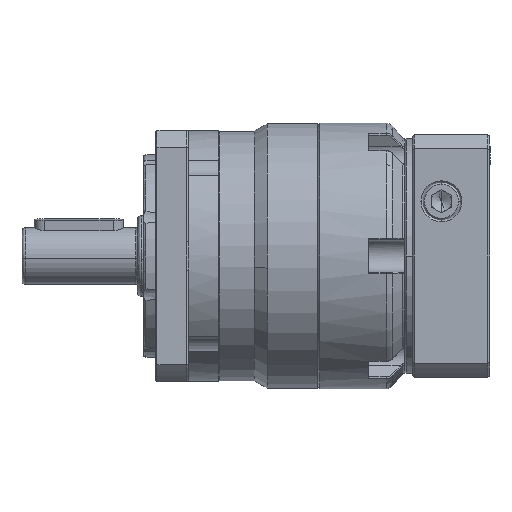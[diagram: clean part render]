
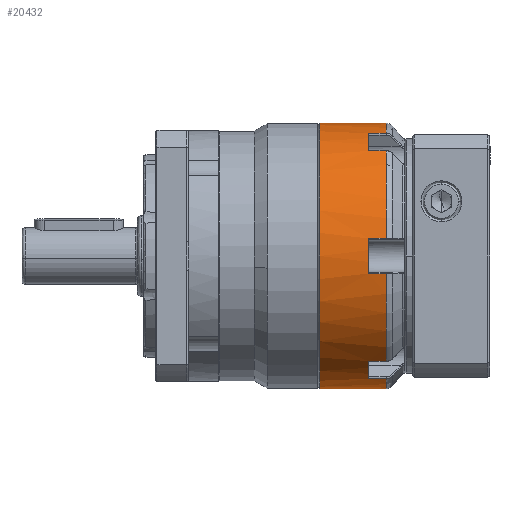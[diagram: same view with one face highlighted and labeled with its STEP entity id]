
A CAD part, front view. The second image highlights one B-rep face of the part: STEP entity #20432.
In plain terms, the highlighted cylindrical face has radius 32.75 mm (diameter 65.5 mm), a partial arc.
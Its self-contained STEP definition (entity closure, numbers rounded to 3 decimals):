
#397 = EDGE_CURVE ( 'NONE', #64731, #60038, #9734, .T. ) ;
#801 = AXIS2_PLACEMENT_3D ( 'NONE', #36148, #3559, #41528 ) ;
#1583 = DIRECTION ( 'NONE',  ( 0., 0., 1. ) ) ;
#1852 = VERTEX_POINT ( 'NONE', #32060 ) ;
#1926 = CARTESIAN_POINT ( 'NONE',  ( 16.921, -32.461, 4.34 ) ) ;
#2207 = AXIS2_PLACEMENT_3D ( 'NONE', #22635, #22480, #22465 ) ;
#3071 = LINE ( 'NONE', #36794, #32007 ) ;
#3264 = EDGE_CURVE ( 'NONE', #67868, #43416, #59003, .T. ) ;
#3559 = DIRECTION ( 'NONE',  ( -1., 0., 0. ) ) ;
#3744 = DIRECTION ( 'NONE',  ( -1., 0., 0. ) ) ;
#4241 = VERTEX_POINT ( 'NONE', #19459 ) ;
#4685 = DIRECTION ( 'NONE',  ( -1., 0., 0. ) ) ;
#4781 = LINE ( 'NONE', #61667, #60448 ) ;
#5180 = CYLINDRICAL_SURFACE ( 'NONE', #8575, 32.75 ) ;
#6924 = DIRECTION ( 'NONE',  ( 1., 0., 0. ) ) ;
#7437 = ORIENTED_EDGE ( 'NONE', *, *, #67014, .T. ) ;
#7731 = DIRECTION ( 'NONE',  ( 1., 0., 0. ) ) ;
#8038 = VERTEX_POINT ( 'NONE', #37664 ) ;
#8348 = VERTEX_POINT ( 'NONE', #29032 ) ;
#8575 = AXIS2_PLACEMENT_3D ( 'NONE', #61800, #56195, #29739 ) ;
#8774 = EDGE_LOOP ( 'NONE', ( #9134, #27161, #31067, #43189, #61864, #9289, #37872, #29565, #31673, #34839, #7437, #62417, #25456, #48362, #41648, #59592 ) ) ;
#9042 = CIRCLE ( 'NONE', #66262, 32.75 ) ;
#9134 = ORIENTED_EDGE ( 'NONE', *, *, #20399, .F. ) ;
#9165 = VECTOR ( 'NONE', #4685, 1000. ) ;
#9180 = DIRECTION ( 'NONE',  ( -1., 0., 0. ) ) ;
#9289 = ORIENTED_EDGE ( 'NONE', *, *, #30266, .T. ) ;
#9734 = CIRCLE ( 'NONE', #2207, 32.75 ) ;
#10822 = DIRECTION ( 'NONE',  ( 1., 0., 0. ) ) ;
#10977 = CARTESIAN_POINT ( 'NONE',  ( 0., -32.461, 4.34 ) ) ;
#11132 = CIRCLE ( 'NONE', #801, 32.75 ) ;
#11227 = CARTESIAN_POINT ( 'NONE',  ( 12.5, -12.472, 30.282 ) ) ;
#11405 = CARTESIAN_POINT ( 'NONE',  ( 16.921, 0., 32.75 ) ) ;
#12010 = LINE ( 'NONE', #50889, #67533 ) ;
#12958 = DIRECTION ( 'NONE',  ( -1., 0., 0. ) ) ;
#13024 = DIRECTION ( 'NONE',  ( 1., 0., 0. ) ) ;
#14005 = LINE ( 'NONE', #28678, #69484 ) ;
#14847 = CARTESIAN_POINT ( 'NONE',  ( 0., -19.989, 25.942 ) ) ;
#15667 = AXIS2_PLACEMENT_3D ( 'NONE', #39479, #6924, #44874 ) ;
#18024 = VECTOR ( 'NONE', #65285, 1000. ) ;
#18313 = CARTESIAN_POINT ( 'NONE',  ( 16.921, -19.989, -25.942 ) ) ;
#18448 = AXIS2_PLACEMENT_3D ( 'NONE', #18558, #56226, #24043 ) ;
#18531 = DIRECTION ( 'NONE',  ( -1., 0., 0. ) ) ;
#18558 = CARTESIAN_POINT ( 'NONE',  ( 16.921, 0., 0. ) ) ;
#18585 = EDGE_CURVE ( 'NONE', #52326, #62519, #52258, .T. ) ;
#18622 = AXIS2_PLACEMENT_3D ( 'NONE', #45408, #12958, #50728 ) ;
#18936 = EDGE_CURVE ( 'NONE', #32157, #67868, #4781, .T. ) ;
#19459 = CARTESIAN_POINT ( 'NONE',  ( 0.5, 0., -32.75 ) ) ;
#20399 = EDGE_CURVE ( 'NONE', #1852, #4241, #12010, .T. ) ;
#20432 = ADVANCED_FACE ( 'NONE', ( #26470 ), #5180, .T. ) ;
#21544 = EDGE_CURVE ( 'NONE', #4241, #39791, #68152, .T. ) ;
#21790 = VERTEX_POINT ( 'NONE', #63703 ) ;
#22465 = DIRECTION ( 'NONE',  ( 0., 0., 1. ) ) ;
#22480 = DIRECTION ( 'NONE',  ( -1., 0., 0. ) ) ;
#22635 = CARTESIAN_POINT ( 'NONE',  ( 16.921, 0., 0. ) ) ;
#22727 = VERTEX_POINT ( 'NONE', #18313 ) ;
#24043 = DIRECTION ( 'NONE',  ( 0., 0., 1. ) ) ;
#25456 = ORIENTED_EDGE ( 'NONE', *, *, #18936, .T. ) ;
#26314 = CARTESIAN_POINT ( 'NONE',  ( 0., -32.461, -4.34 ) ) ;
#26470 = FACE_OUTER_BOUND ( 'NONE', #8774, .T. ) ;
#26931 = AXIS2_PLACEMENT_3D ( 'NONE', #66122, #34204, #1583 ) ;
#27161 = ORIENTED_EDGE ( 'NONE', *, *, #49071, .T. ) ;
#27824 = CARTESIAN_POINT ( 'NONE',  ( 0., -12.472, -30.282 ) ) ;
#28122 = CARTESIAN_POINT ( 'NONE',  ( 16.921, -32.461, -4.34 ) ) ;
#28351 = VERTEX_POINT ( 'NONE', #65599 ) ;
#28678 = CARTESIAN_POINT ( 'NONE',  ( 0., -19.989, -25.942 ) ) ;
#29032 = CARTESIAN_POINT ( 'NONE',  ( 12.5, -19.989, 25.942 ) ) ;
#29565 = ORIENTED_EDGE ( 'NONE', *, *, #65252, .F. ) ;
#29739 = DIRECTION ( 'NONE',  ( 0., 0., 1. ) ) ;
#29864 = CIRCLE ( 'NONE', #18448, 32.75 ) ;
#30266 = EDGE_CURVE ( 'NONE', #22727, #52326, #29864, .T. ) ;
#31067 = ORIENTED_EDGE ( 'NONE', *, *, #62935, .T. ) ;
#31362 = CARTESIAN_POINT ( 'NONE',  ( 16.921, 0., 0. ) ) ;
#31455 = DIRECTION ( 'NONE',  ( -1., 0., 0. ) ) ;
#31598 = DIRECTION ( 'NONE',  ( 0., 0., 1. ) ) ;
#31673 = ORIENTED_EDGE ( 'NONE', *, *, #64530, .T. ) ;
#31780 = EDGE_CURVE ( 'NONE', #43416, #39791, #3071, .T. ) ;
#32007 = VECTOR ( 'NONE', #3744, 1000. ) ;
#32060 = CARTESIAN_POINT ( 'NONE',  ( 16.921, 0., -32.75 ) ) ;
#32157 = VERTEX_POINT ( 'NONE', #11227 ) ;
#33929 = LINE ( 'NONE', #14847, #62317 ) ;
#34204 = DIRECTION ( 'NONE',  ( 1., 0., 0. ) ) ;
#34802 = LINE ( 'NONE', #10977, #49006 ) ;
#34839 = ORIENTED_EDGE ( 'NONE', *, *, #397, .T. ) ;
#36148 = CARTESIAN_POINT ( 'NONE',  ( 16.921, 0., 0. ) ) ;
#36794 = CARTESIAN_POINT ( 'NONE',  ( 0., 0., 32.75 ) ) ;
#37664 = CARTESIAN_POINT ( 'NONE',  ( 12.5, -19.989, -25.942 ) ) ;
#37872 = ORIENTED_EDGE ( 'NONE', *, *, #18585, .T. ) ;
#39479 = CARTESIAN_POINT ( 'NONE',  ( 12.5, 0., 0. ) ) ;
#39791 = VERTEX_POINT ( 'NONE', #46601 ) ;
#41528 = DIRECTION ( 'NONE',  ( 0., 0., 1. ) ) ;
#41648 = ORIENTED_EDGE ( 'NONE', *, *, #31780, .T. ) ;
#43189 = ORIENTED_EDGE ( 'NONE', *, *, #61698, .F. ) ;
#43284 = CARTESIAN_POINT ( 'NONE',  ( 12.5, 0., 0. ) ) ;
#43416 = VERTEX_POINT ( 'NONE', #11405 ) ;
#43457 = DIRECTION ( 'NONE',  ( 1., 0., 0. ) ) ;
#44703 = CIRCLE ( 'NONE', #15667, 32.75 ) ;
#44874 = DIRECTION ( 'NONE',  ( 0., 0., 1. ) ) ;
#45408 = CARTESIAN_POINT ( 'NONE',  ( 0.5, 0., 0. ) ) ;
#46601 = CARTESIAN_POINT ( 'NONE',  ( 0.5, 0., 32.75 ) ) ;
#47533 = CARTESIAN_POINT ( 'NONE',  ( 12.5, -32.461, -4.34 ) ) ;
#48226 = AXIS2_PLACEMENT_3D ( 'NONE', #31362, #31455, #31598 ) ;
#48362 = ORIENTED_EDGE ( 'NONE', *, *, #3264, .T. ) ;
#48648 = DIRECTION ( 'NONE',  ( 0., 0., 1. ) ) ;
#49006 = VECTOR ( 'NONE', #43457, 1000. ) ;
#49071 = EDGE_CURVE ( 'NONE', #1852, #21790, #11132, .T. ) ;
#49231 = CARTESIAN_POINT ( 'NONE',  ( 16.921, -12.472, 30.282 ) ) ;
#49614 = CIRCLE ( 'NONE', #26931, 32.75 ) ;
#50728 = DIRECTION ( 'NONE',  ( 0., 0., -1. ) ) ;
#50889 = CARTESIAN_POINT ( 'NONE',  ( 0., 0., -32.75 ) ) ;
#52258 = LINE ( 'NONE', #26314, #9165 ) ;
#52326 = VERTEX_POINT ( 'NONE', #28122 ) ;
#53931 = EDGE_CURVE ( 'NONE', #32157, #8348, #9042, .T. ) ;
#54490 = VERTEX_POINT ( 'NONE', #60203 ) ;
#54924 = CARTESIAN_POINT ( 'NONE',  ( 16.921, -19.989, 25.942 ) ) ;
#56195 = DIRECTION ( 'NONE',  ( -1., 0., 0. ) ) ;
#56226 = DIRECTION ( 'NONE',  ( -1., 0., 0. ) ) ;
#59003 = CIRCLE ( 'NONE', #48226, 32.75 ) ;
#59287 = LINE ( 'NONE', #27824, #18024 ) ;
#59592 = ORIENTED_EDGE ( 'NONE', *, *, #21544, .F. ) ;
#60038 = VERTEX_POINT ( 'NONE', #54924 ) ;
#60203 = CARTESIAN_POINT ( 'NONE',  ( 12.5, -12.472, -30.282 ) ) ;
#60448 = VECTOR ( 'NONE', #7731, 1000. ) ;
#61667 = CARTESIAN_POINT ( 'NONE',  ( 0., -12.472, 30.282 ) ) ;
#61698 = EDGE_CURVE ( 'NONE', #8038, #54490, #44703, .T. ) ;
#61800 = CARTESIAN_POINT ( 'NONE',  ( 0., 0., 0. ) ) ;
#61864 = ORIENTED_EDGE ( 'NONE', *, *, #68558, .T. ) ;
#62317 = VECTOR ( 'NONE', #9180, 1000. ) ;
#62417 = ORIENTED_EDGE ( 'NONE', *, *, #53931, .F. ) ;
#62519 = VERTEX_POINT ( 'NONE', #47533 ) ;
#62935 = EDGE_CURVE ( 'NONE', #21790, #54490, #59287, .T. ) ;
#63703 = CARTESIAN_POINT ( 'NONE',  ( 16.921, -12.472, -30.282 ) ) ;
#64530 = EDGE_CURVE ( 'NONE', #28351, #64731, #34802, .T. ) ;
#64731 = VERTEX_POINT ( 'NONE', #1926 ) ;
#65252 = EDGE_CURVE ( 'NONE', #28351, #62519, #49614, .T. ) ;
#65285 = DIRECTION ( 'NONE',  ( -1., 0., 0. ) ) ;
#65599 = CARTESIAN_POINT ( 'NONE',  ( 12.5, -32.461, 4.34 ) ) ;
#66122 = CARTESIAN_POINT ( 'NONE',  ( 12.5, 0., 0. ) ) ;
#66262 = AXIS2_PLACEMENT_3D ( 'NONE', #43284, #10822, #48648 ) ;
#67014 = EDGE_CURVE ( 'NONE', #60038, #8348, #33929, .T. ) ;
#67533 = VECTOR ( 'NONE', #18531, 1000. ) ;
#67868 = VERTEX_POINT ( 'NONE', #49231 ) ;
#68152 = CIRCLE ( 'NONE', #18622, 32.75 ) ;
#68558 = EDGE_CURVE ( 'NONE', #8038, #22727, #14005, .T. ) ;
#69484 = VECTOR ( 'NONE', #13024, 1000. ) ;
